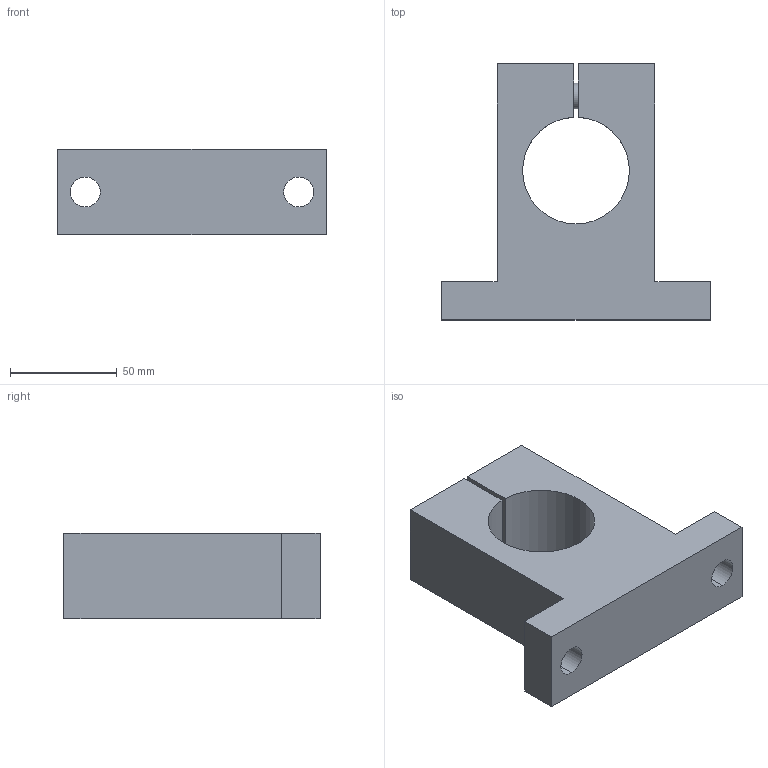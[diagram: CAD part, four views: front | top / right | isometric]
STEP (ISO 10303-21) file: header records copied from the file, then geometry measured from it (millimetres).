
FILE_DESCRIPTION (( 'STEP AP214' ), '1' );
FILE_NAME ('2.7116 Akselin päätykiinnike SK50.STEP', '2024-06-12T10:47:36', ( '' ), ( '' ), 'SwSTEP 2.0', 'SolidWorks 2024', '' );
FILE_SCHEMA (( 'AUTOMOTIVE_DESIGN' ));
Length unit declared in the file: millimetre
Products named in the file (1): 2.7116 Akselin päätykiinnike SK50
Bounding box: 126 x 120 x 40 mm (x, y, z)
Volume: 306209.1 mm3; surface area: 45137.9 mm2
Topology: 1 solids, 1 shells, 36 faces, 91 edges, 60 vertices
Faces by surface type: plane 22, cylinder 12, cone 2
Entity records: 1120 total; most frequent: DIRECTION 191, CARTESIAN_POINT 188, ORIENTED_EDGE 182, EDGE_CURVE 91, VECTOR 65, LINE 65, AXIS2_PLACEMENT_3D 63, VERTEX_POINT 60
